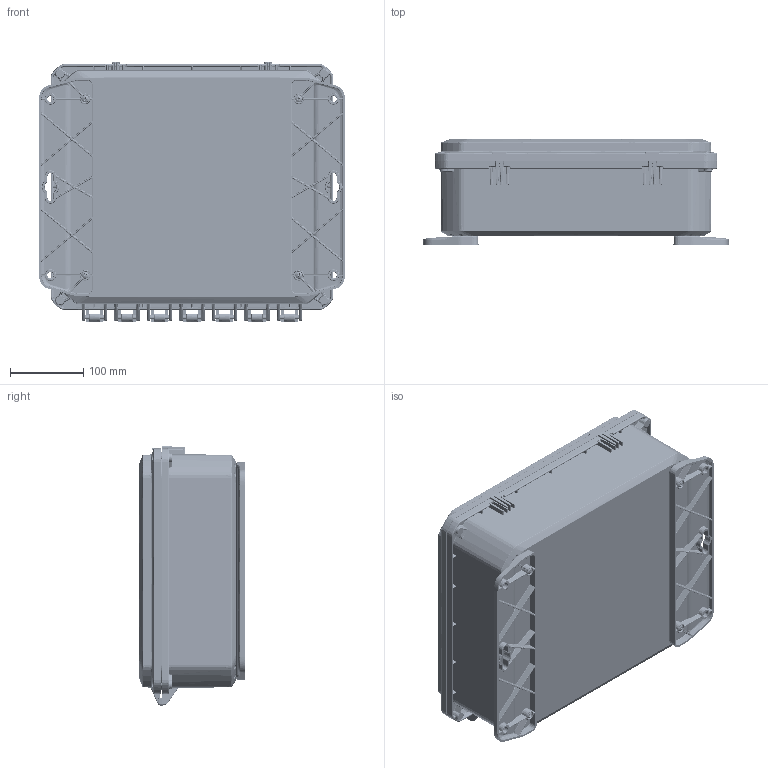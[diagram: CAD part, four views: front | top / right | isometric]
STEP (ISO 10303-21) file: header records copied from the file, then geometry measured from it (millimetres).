
FILE_DESCRIPTION (( 'STEP AP214' ), '1' );
FILE_NAME ('ZH-141204-34.STEP', '2024-10-25T19:29:51', ( '' ), ( '' ), 'SwSTEP 2.0', 'SolidWorks 2024', '' );
FILE_SCHEMA (( 'AUTOMOTIVE_DESIGN' ));
Products named in the file (11): SCREWS-046_SCREWS-046; ZH-12F_ZH-12F-01; INSERTS-4; Z_-14124BI_ZH-14124BI-01; ZH-1412G; SCREWS-047_default; Z_-14124B_ZH-14124B-01; ZH-141204-34; LABEL-104; Z_-14121C_ZH-14121C-01; Z_-14121CG_ZH-14121CG-01
Assembly tree (28 placements, depth 3):
  ZH-141204-34
    Z_-14124BI_ZH-14124BI-01
      Z_-14124B_ZH-14124B-01
      INSERTS-4  x12
      LABEL-104
    Z_-14121CG_ZH-14121CG-01
      Z_-14121C_ZH-14121C-01
      ZH-1412G
    SCREWS-046_SCREWS-046  x4
    SCREWS-047_default  x4
    ZH-12F_ZH-12F-01  x2
Bounding box: 419.1 x 145.34 x 355.47 mm (x, y, z)
Volume: 2286456.6 mm3; surface area: 1124349.9 mm2
Topology: 26 solids, 26 shells, 9309 faces, 22831 edges, 13384 vertices
Faces by surface type: bspline 2855, cylinder 2290, plane 1760, cone 1410, torus 950, sphere 44
Entity records: 339863 total; most frequent: CARTESIAN_POINT 201722, ORIENTED_EDGE 32248, DIRECTION 25080, EDGE_CURVE 16124, AXIS2_PLACEMENT_3D 10255, VERTEX_POINT 9420, EDGE_LOOP 7046, FACE_OUTER_BOUND 6858
